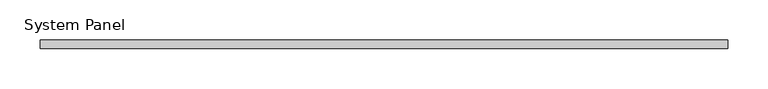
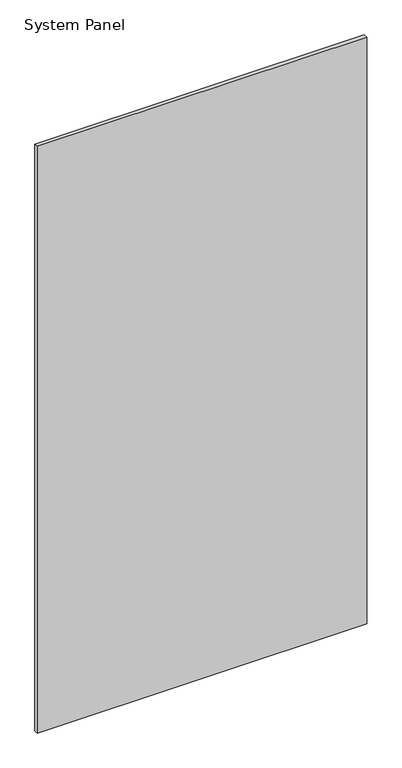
"""IFC4 building model written with IfcOpenShell, lengths in millimetres: plate geometry, System Panel : стекло_смещение_0."""

from ifc_helpers import new_model, si_unit, origin, origin_with_axes, place, context, project, spatial, polyline, outline, extrude, source, transform, mapped, element, save


def system_panel_caa8ea24(model_context):
    return source(origin(), model_context, "Body", "SweptSolid", [
        extrude(outline(polyline([(425.0, -5.0), (-425.0, -5.0), (-425.0, 5.0), (425.0, 5.0), (425.0, -5.0)])), origin_with_axes(), (0.0, 0.0, 1.0), 1600.0),
    ])


if __name__ == "__main__":
    model = new_model("IFC4")
    model_context = context("Model", 3, world=origin())
    ifc_project = project(units=[si_unit("LENGTHUNIT", "METRE", prefix="MILLI")], contexts=[model_context])
    site = spatial("IfcSite", under=ifc_project)
    building = spatial("IfcBuilding", under=site)
    placement = place(None, origin())
    system_panel_shape = system_panel_caa8ea24(model_context)
    element("IfcPlate", 1, ObjectType="System Panel : стекло_смещение_0", at=placement, inside=building, context=model_context, shape_type="MappedRepresentation", body=[
        mapped(system_panel_shape, transform((0.0, 0.0, 0.0), x_axis=(1.0, 0.0, 0.0), y_axis=(0.0, 1.0, 0.0), z_axis=(0.0, 0.0, 1.0))),
    ])
    save(model, "model.ifc")
